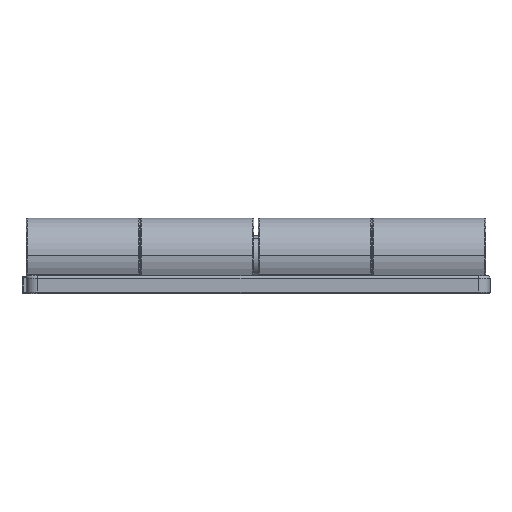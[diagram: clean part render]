
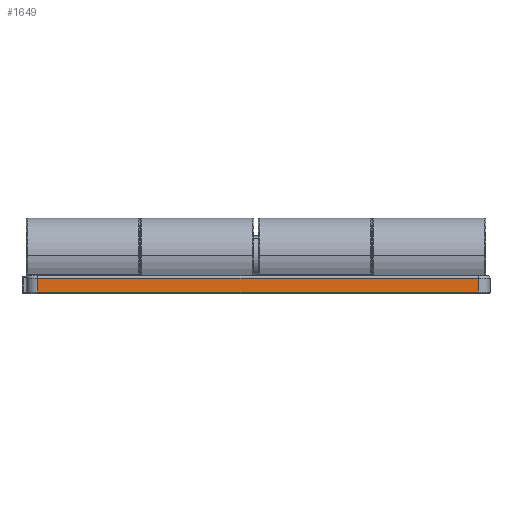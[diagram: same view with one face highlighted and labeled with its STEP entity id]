
A CAD part, top view. The second image highlights one B-rep face of the part: STEP entity #1649.
In plain terms, the highlighted planar face has unit normal (0, 0, 1).
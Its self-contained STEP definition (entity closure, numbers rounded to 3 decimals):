
#337 = LINE ( 'NONE', #403, #2695 ) ;
#358 = CARTESIAN_POINT ( 'NONE',  ( -19., -1.4, 0. ) ) ;
#403 = CARTESIAN_POINT ( 'NONE',  ( 20., -0.2, 0. ) ) ;
#418 = ORIENTED_EDGE ( 'NONE', *, *, #1503, .T. ) ;
#585 = DIRECTION ( 'NONE',  ( 0., 1., 0. ) ) ;
#810 = VERTEX_POINT ( 'NONE', #3379 ) ;
#888 = EDGE_CURVE ( 'NONE', #4410, #2527, #1481, .T. ) ;
#907 = CARTESIAN_POINT ( 'NONE',  ( -19., -0.2, 0. ) ) ;
#908 = VECTOR ( 'NONE', #585, 1000. ) ;
#971 = FACE_OUTER_BOUND ( 'NONE', #4740, .T. ) ;
#1155 = AXIS2_PLACEMENT_3D ( 'NONE', #1866, #4956, #2329 ) ;
#1189 = EDGE_CURVE ( 'NONE', #2527, #2016, #4529, .T. ) ;
#1287 = CARTESIAN_POINT ( 'NONE',  ( 19., -1.4, 0. ) ) ;
#1313 = ORIENTED_EDGE ( 'NONE', *, *, #1321, .T. ) ;
#1321 = EDGE_CURVE ( 'NONE', #2016, #810, #4424, .T. ) ;
#1448 = CARTESIAN_POINT ( 'NONE',  ( -19., -1.5, 0. ) ) ;
#1481 = LINE ( 'NONE', #1448, #4865 ) ;
#1503 = EDGE_CURVE ( 'NONE', #810, #4410, #337, .T. ) ;
#1649 = ADVANCED_FACE ( 'NONE', ( #971 ), #4533, .T. ) ;
#1866 = CARTESIAN_POINT ( 'NONE',  ( 20., -1.5, 0. ) ) ;
#2016 = VERTEX_POINT ( 'NONE', #1287 ) ;
#2223 = CARTESIAN_POINT ( 'NONE',  ( 19., -1.4, 0. ) ) ;
#2329 = DIRECTION ( 'NONE',  ( 1., 0., 0. ) ) ;
#2351 = DIRECTION ( 'NONE',  ( 0., -1., 0. ) ) ;
#2527 = VERTEX_POINT ( 'NONE', #358 ) ;
#2674 = DIRECTION ( 'NONE',  ( 1., 0., 0. ) ) ;
#2695 = VECTOR ( 'NONE', #3510, 1000. ) ;
#3379 = CARTESIAN_POINT ( 'NONE',  ( 19., -0.2, 0. ) ) ;
#3510 = DIRECTION ( 'NONE',  ( -1., 0., 0. ) ) ;
#3544 = ORIENTED_EDGE ( 'NONE', *, *, #888, .T. ) ;
#4089 = ORIENTED_EDGE ( 'NONE', *, *, #1189, .T. ) ;
#4410 = VERTEX_POINT ( 'NONE', #907 ) ;
#4424 = LINE ( 'NONE', #5439, #908 ) ;
#4529 = LINE ( 'NONE', #2223, #5696 ) ;
#4533 = PLANE ( 'NONE',  #1155 ) ;
#4740 = EDGE_LOOP ( 'NONE', ( #3544, #4089, #1313, #418 ) ) ;
#4865 = VECTOR ( 'NONE', #2351, 1000. ) ;
#4956 = DIRECTION ( 'NONE',  ( 0., 0., 1. ) ) ;
#5439 = CARTESIAN_POINT ( 'NONE',  ( 19., -1.5, 0. ) ) ;
#5696 = VECTOR ( 'NONE', #2674, 1000. ) ;
